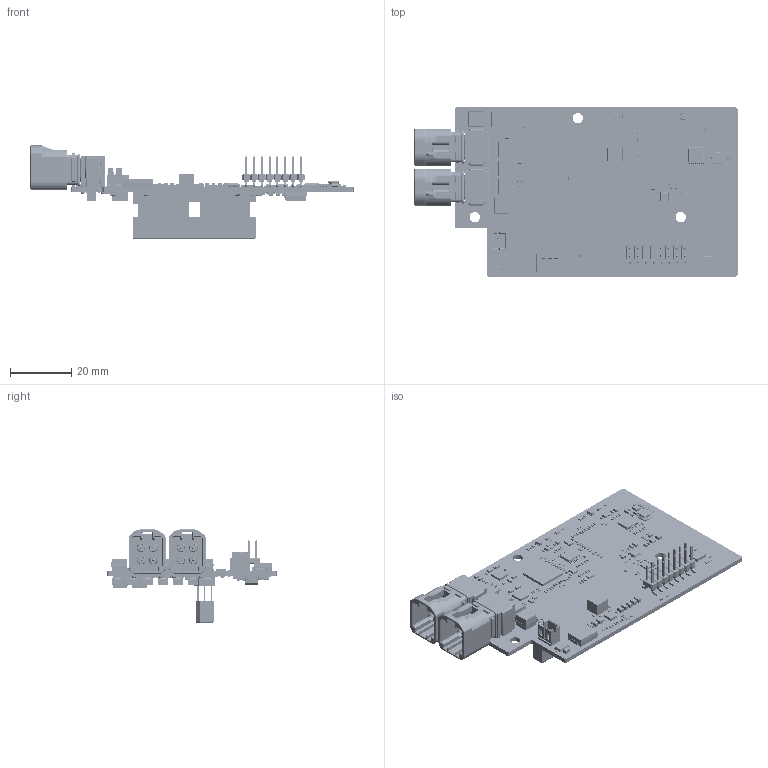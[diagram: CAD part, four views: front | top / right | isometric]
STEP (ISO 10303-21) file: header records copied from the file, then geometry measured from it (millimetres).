
FILE_DESCRIPTION(/* description */ (''),/* implementation_level */ '2;1');
FILE_NAME(/* name */ 'Capture Card Quad_Version Finale taille rduite.step',/* time_stamp */ '2024-01-18T16:35:39+01:00',/* author */ (''),/* organization */ (''),/* preprocessor_version */ 'ST-DEVELOPER v20',/* originating_system */ 'Autodesk Translation Framework v12.14.0.127',/* authorisation */ '');
FILE_SCHEMA (('AUTOMOTIVE_DESIGN { 1 0 10303 214 3 1 1 }'));
Products named in the file (35): Capture Card Quad_Version Finale taille réduite; C2917_TCJD107M025R0055; LED0603_LTST-C191KGKT; DO-221BC_V8PAM10HM3; DO-219AB_BZD27C15P-HE3-08; DO-214AB_5.0SMDJ60CA; BL0402; L0603_PFL1609-561MEU; L1210_1210POC-223MRC; L4X4_NRS4018T2R2MDGJ; L0805_LQM21PN1R0NGRD; TYS5040101M-10; C0402; C0603; SOT-23-3_PMBT2907A,215; SOT323_DMG1012UW-7; XL_4(ABM10-25.000MHZ-D30-T3); DFET_SMD_032X033_FDMC4435BZ; 6SON_1R45X1_SN74LVC1G08QDRYRQ1; SOT-563_AP61100Z6-7; WDFN8_2X2_NCV6323BMTAATBG; USON_10_TPD4E05U06DQAR; 16-TSSOP_TCA9546APWR; TQFN20_4X4_MAX20087ATPA_VY+; R0402; QTH-060-01-L-D-A_QTH-060-04-H-D-A-K-TR; CON_EDGE_FAKRA_004_TH_RA_M_120X243_GNDPADS_B_410AF04NFTB2T1CZ; M20-8760842P_M20-8760842P; B2B-PH-K-S; PCA9306GF,115; Body; Pins; C0805; RC1206; Composant42
Assembly tree (423 placements, depth 3):
  Capture Card Quad_Version Finale taille réduite
    C0805  x21
    C2917_TCJD107M025R0055
    LED0603_LTST-C191KGKT  x3
    DO-221BC_V8PAM10HM3
    DO-219AB_BZD27C15P-HE3-08
    DO-214AB_5.0SMDJ60CA
    BL0402  x8
    L0603_PFL1609-561MEU  x16
    L1210_1210POC-223MRC  x8
    L4X4_NRS4018T2R2MDGJ
    L0805_LQM21PN1R0NGRD
    TYS5040101M-10  x8
    C0402  x121
    C0603  x37
    SOT-23-3_PMBT2907A,215
    SOT323_DMG1012UW-7  x6
    XL_4(ABM10-25.000MHZ-D30-T3)  x2
    DFET_SMD_032X033_FDMC4435BZ  x2
    6SON_1R45X1_SN74LVC1G08QDRYRQ1
    SOT-563_AP61100Z6-7
    WDFN8_2X2_NCV6323BMTAATBG
    USON_10_TPD4E05U06DQAR
    16-TSSOP_TCA9546APWR  x2
    TQFN20_4X4_MAX20087ATPA_VY+  x2
    R0402  x166
    QTH-060-01-L-D-A_QTH-060-04-H-D-A-K-TR
    CON_EDGE_FAKRA_004_TH_RA_M_120X243_GNDPADS_B_410AF04NFTB2T1CZ  x2
    M20-8760842P_M20-8760842P
    B2B-PH-K-S
    PCA9306GF,115
      Body
      Pins
    RC1206
    Composant42
Bounding box: 105.15 x 55 x 30.31 mm (x, y, z)
Volume: 15308 mm3; surface area: 28012.3 mm2
Topology: 1203 solids, 1223 shells, 24176 faces, 59834 edges, 36953 vertices
Faces by surface type: plane 17127, cylinder 5100, sphere 1598, torus 181, bspline 118, cone 52
Full cylindrical faces by diameter (mm): 0.062 x1, 0.085 x16, 0.1 x2, 0.104 x1, 0.156 x6, 0.217 x1, 0.25 x2, 0.5 x2, 0.8 x10, 0.889 x2, 1.09 x2, 1.2 x8, 1.4 x1, 1.6 x8, 2.2 x8, 2.8 x8, 3.4 x3, 7 x2
Entity records: 233543 total; most frequent: CARTESIAN_POINT 51024, ORIENTED_EDGE 36892, DIRECTION 34704, EDGE_CURVE 18450, LINE 16296, VECTOR 16296, VERTEX_POINT 12002, AXIS2_PLACEMENT_3D 9204
